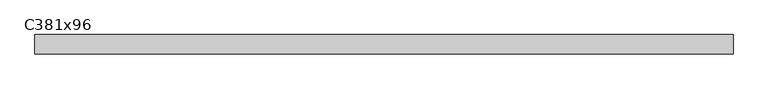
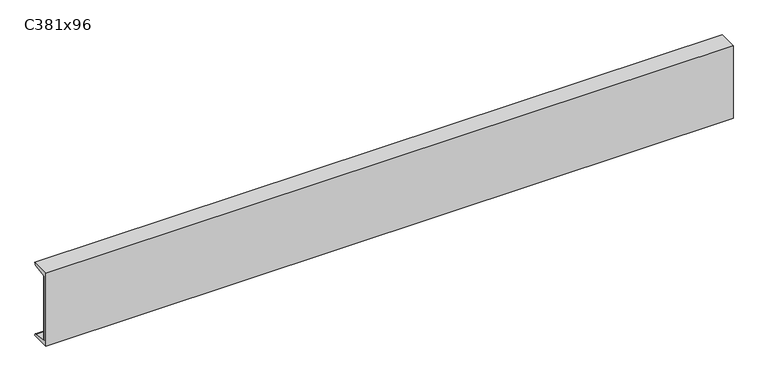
"""IFC4 building model written with IfcOpenShell, lengths in millimetres: beam geometry, M_C-Channel_305x105 : C381x96."""

from ifc_helpers import new_model, si_unit, point, frame, frame_2d, origin, place, context, project, spatial, polyline, circle_curve, trimmed, segment, composite_curve, outline, extrude, source, transform, mapped, element, save


def c381x96_1e17e779(model_context):
    return source(origin(), model_context, "Body", "SweptSolid", [
        extrude(outline(composite_curve([segment(polyline([(-16.8909985, 192.0), (79.1090015, 192.0)]), True, "CONTINUOUS"), segment(trimmed(circle_curve(frame_2d((66.4090015, 192.0)), 12.7), [point((79.1090015, 192.0))], [point((66.4090015, 179.3))], False, "CARTESIAN"), True, "CONTINUOUS"), segment(polyline([(66.4090015, 179.3), (-3.8909985, 168.1655738), (-3.8909985, -168.1655738), (66.4090015, -179.3)]), True, "CONTINUOUS"), segment(trimmed(circle_curve(frame_2d((66.4090015, -192.0)), 12.7), [point((66.4090015, -179.3))], [point((79.1090015, -192.0))], False, "CARTESIAN"), True, "CONTINUOUS"), segment(polyline([(79.1090015, -192.0), (-16.8909985, -192.0), (-16.8909985, 192.0)]), True, "CONTINUOUS")], self_intersect=False)), frame((81.1462653, 0.0, 0.0), z_axis=(1.0, 0.0, 0.0), x_axis=(0.0, 1.0, 0.0)), (0.0, 0.0, 1.0), 3439.0),
        extrude(outline(polyline([(4.2340015, 168.3239583), (4.2340015, -165.995707), (4.2340015, -168.3239583), (-0.8909985, -167.512238), (-0.8909985, 167.512238), (4.2340015, 168.3239583)])), frame((81.1462653, 0.0, 0.0), z_axis=(1.0, 0.0, 0.0), x_axis=(0.0, 1.0, 0.0)), (0.0, 0.0, 1.0), 3439.0),
    ])


if __name__ == "__main__":
    model = new_model("IFC4")
    model_context = context("Model", 3, world=origin())
    ifc_project = project(units=[si_unit("LENGTHUNIT", "METRE", prefix="MILLI")], contexts=[model_context])
    site = spatial("IfcSite", under=ifc_project)
    building = spatial("IfcBuilding", under=site)
    placement = place(None, origin())
    c381x96_shape = c381x96_1e17e779(model_context)
    element("IfcBeam", 1, ObjectType="M_C-Channel_305x105 : C381x96", at=placement, inside=building, context=model_context, shape_type="MappedRepresentation", body=[
        mapped(c381x96_shape, transform((0.0, 0.0, 0.0), x_axis=(1.0, 0.0, 0.0), y_axis=(0.0, 1.0, 0.0), z_axis=(0.0, 0.0, 1.0))),
    ])
    save(model, "model.ifc")
